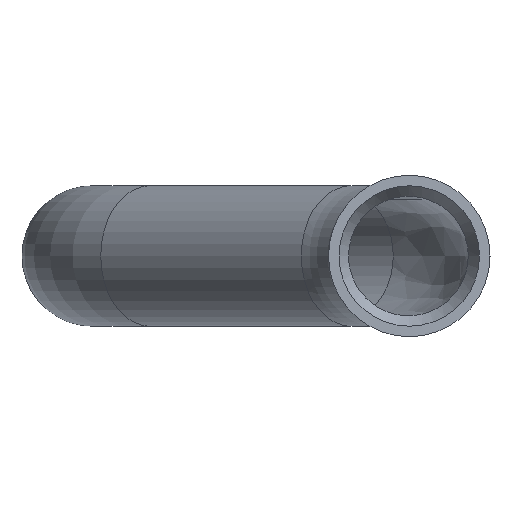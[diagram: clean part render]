
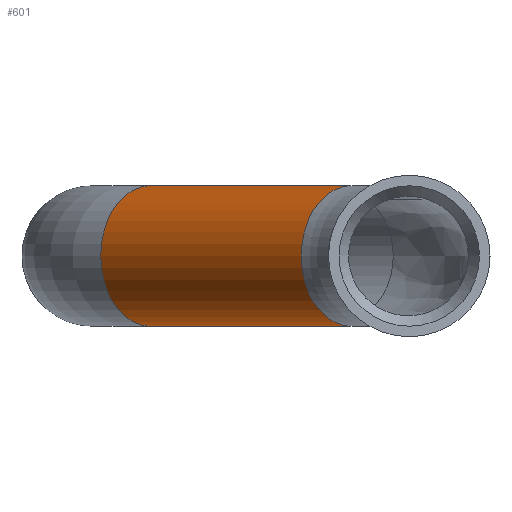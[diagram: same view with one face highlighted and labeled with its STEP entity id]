
A CAD part, left-side view. The second image highlights one B-rep face of the part: STEP entity #601.
In plain terms, the highlighted cylindrical face has radius 6 mm (diameter 12 mm), a full revolution.
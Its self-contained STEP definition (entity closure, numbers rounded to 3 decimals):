
#125=CARTESIAN_POINT('',(12.021,-12.021,-6.));
#126=VERTEX_POINT('',#125);
#127=CARTESIAN_POINT('',(12.021,-12.021,0.0));
#128=DIRECTION('',(-0.707,-0.707,0.0));
#129=DIRECTION('',(0.707,-0.707,0.0));
#130=AXIS2_PLACEMENT_3D('',#127,#128,#129);
#131=CIRCLE('',#130,6.);
#132=EDGE_CURVE('',#126,#126,#131,.T.);
#241=CARTESIAN_POINT('',(33.405,0.878,0.0));
#242=VERTEX_POINT('',#241);
#243=CARTESIAN_POINT('',(29.162,5.121,0.0));
#244=DIRECTION('',(-0.707,-0.707,0.0));
#245=DIRECTION('',(0.707,-0.707,0.0));
#246=AXIS2_PLACEMENT_3D('',#243,#244,#245);
#247=CIRCLE('',#246,6.);
#248=EDGE_CURVE('',#242,#242,#247,.T.);
#590=CARTESIAN_POINT('',(12.021,-12.021,0.0));
#591=DIRECTION('',(0.707,0.707,0.0));
#592=DIRECTION('',(0.707,-0.707,0.0));
#593=AXIS2_PLACEMENT_3D('',#590,#591,#592);
#594=CYLINDRICAL_SURFACE('',#593,6.);
#595=ORIENTED_EDGE('',*,*,#132,.F.);
#596=EDGE_LOOP('',(#595));
#597=FACE_OUTER_BOUND('',#596,.T.);
#598=ORIENTED_EDGE('',*,*,#248,.T.);
#599=EDGE_LOOP('',(#598));
#600=FACE_BOUND('',#599,.T.);
#601=ADVANCED_FACE('',(#597,#600),#594,.T.);
